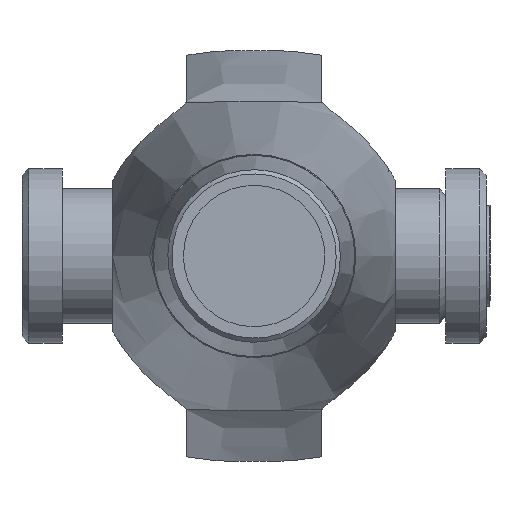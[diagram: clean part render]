
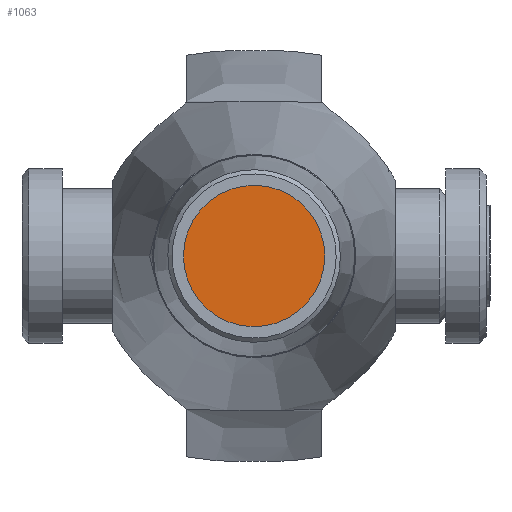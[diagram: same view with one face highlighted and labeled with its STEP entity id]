
A CAD part, left-side view. The second image highlights one B-rep face of the part: STEP entity #1063.
In plain terms, the highlighted planar face has unit normal (-1, 0, 0).
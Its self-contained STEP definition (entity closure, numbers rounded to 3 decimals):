
#84=PLANE('',#1161);
#116=FACE_OUTER_BOUND('',#180,.T.);
#180=EDGE_LOOP('',(#701,#702));
#359=CIRCLE('',#1159,5.25);
#360=CIRCLE('',#1160,5.25);
#427=VERTEX_POINT('',#1618);
#428=VERTEX_POINT('',#1620);
#537=EDGE_CURVE('',#428,#427,#359,.T.);
#538=EDGE_CURVE('',#427,#428,#360,.T.);
#701=ORIENTED_EDGE('',*,*,#537,.T.);
#702=ORIENTED_EDGE('',*,*,#538,.T.);
#1063=ADVANCED_FACE('',(#116),#84,.T.);
#1159=AXIS2_PLACEMENT_3D('',#1621,#1310,#1311);
#1160=AXIS2_PLACEMENT_3D('',#1622,#1312,#1313);
#1161=AXIS2_PLACEMENT_3D('',#1623,#1314,#1315);
#1310=DIRECTION('center_axis',(-1.,0.,0.));
#1311=DIRECTION('ref_axis',(0.,0.487,0.873));
#1312=DIRECTION('center_axis',(-1.,0.,0.));
#1313=DIRECTION('ref_axis',(0.,0.487,0.873));
#1314=DIRECTION('center_axis',(-1.,0.,0.));
#1315=DIRECTION('ref_axis',(0.,0.487,0.873));
#1618=CARTESIAN_POINT('',(-116.,4.585,-2.557));
#1620=CARTESIAN_POINT('',(-116.,-4.585,2.557));
#1621=CARTESIAN_POINT('Origin',(-116.,0.,0.));
#1622=CARTESIAN_POINT('Origin',(-116.,0.,0.));
#1623=CARTESIAN_POINT('Origin',(-116.,0.,0.));
